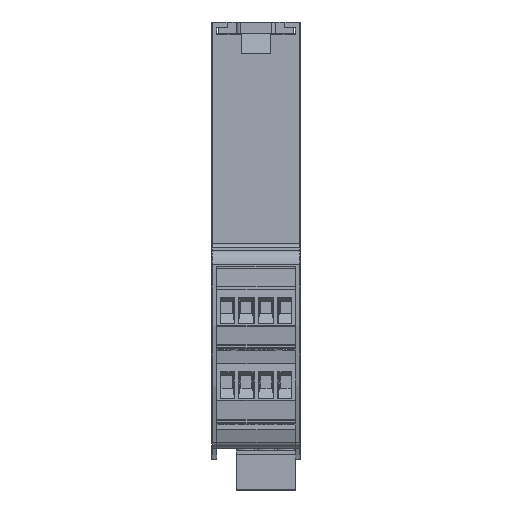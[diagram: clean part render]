
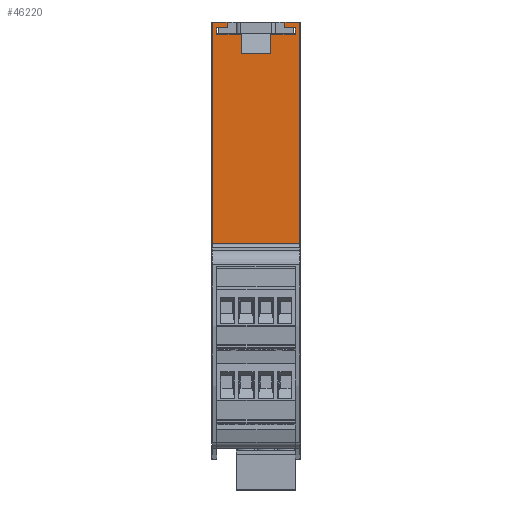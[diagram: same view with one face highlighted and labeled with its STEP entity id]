
A CAD part, left-side view. The second image highlights one B-rep face of the part: STEP entity #46220.
In plain terms, the highlighted planar face has unit normal (-1, 0, 0).
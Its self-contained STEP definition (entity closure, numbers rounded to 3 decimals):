
#266 = LINE ( 'NONE', #46862, #15262 ) ;
#1207 = LINE ( 'NONE', #30111, #59656 ) ;
#2087 = EDGE_LOOP ( 'NONE', ( #49932, #69602, #14100, #32956, #34879, #19425, #62532, #66159, #24176, #41565, #67461, #55290, #2326, #4050, #31049, #40725 ) ) ;
#2187 = VECTOR ( 'NONE', #13153, 1000. ) ;
#2326 = ORIENTED_EDGE ( 'NONE', *, *, #39250, .F. ) ;
#2455 = DIRECTION ( 'NONE',  ( 0., 0., -1. ) ) ;
#2920 = CARTESIAN_POINT ( 'NONE',  ( -39., -10., -1.5 ) ) ;
#2985 = LINE ( 'NONE', #58661, #31254 ) ;
#3419 = VERTEX_POINT ( 'NONE', #73088 ) ;
#3973 = VERTEX_POINT ( 'NONE', #19007 ) ;
#4050 = ORIENTED_EDGE ( 'NONE', *, *, #49450, .F. ) ;
#4187 = CARTESIAN_POINT ( 'NONE',  ( -39., 10., -1.5 ) ) ;
#4874 = EDGE_CURVE ( 'NONE', #38702, #3419, #9086, .T. ) ;
#5926 = VERTEX_POINT ( 'NONE', #28206 ) ;
#6036 = DIRECTION ( 'NONE',  ( 0., 1., 0. ) ) ;
#6085 = CARTESIAN_POINT ( 'NONE',  ( -39., 10., 0. ) ) ;
#7244 = DIRECTION ( 'NONE',  ( 0., 0., 1. ) ) ;
#7492 = CARTESIAN_POINT ( 'NONE',  ( -39., 3.7, 0. ) ) ;
#9086 = LINE ( 'NONE', #53193, #37425 ) ;
#9748 = EDGE_CURVE ( 'NONE', #16687, #38702, #17158, .T. ) ;
#10743 = LINE ( 'NONE', #42590, #40933 ) ;
#11021 = CARTESIAN_POINT ( 'NONE',  ( -39., -11.15, -0.1 ) ) ;
#11895 = CARTESIAN_POINT ( 'NONE',  ( -39., 11.25, -1.5 ) ) ;
#12021 = EDGE_CURVE ( 'NONE', #71825, #65815, #10743, .T. ) ;
#13153 = DIRECTION ( 'NONE',  ( 0., 0., -1. ) ) ;
#13456 = CARTESIAN_POINT ( 'NONE',  ( -39., 10., -3.1 ) ) ;
#13483 = LINE ( 'NONE', #11895, #28557 ) ;
#14051 = DIRECTION ( 'NONE',  ( 0., -1., 0. ) ) ;
#14100 = ORIENTED_EDGE ( 'NONE', *, *, #31877, .T. ) ;
#14666 = LINE ( 'NONE', #42344, #43109 ) ;
#15262 = VECTOR ( 'NONE', #7244, 1000. ) ;
#16175 = DIRECTION ( 'NONE',  ( 1., 0., 0. ) ) ;
#16680 = CARTESIAN_POINT ( 'NONE',  ( -39., 7.35, 0. ) ) ;
#16687 = VERTEX_POINT ( 'NONE', #57250 ) ;
#17158 = LINE ( 'NONE', #7492, #2187 ) ;
#17330 = EDGE_CURVE ( 'NONE', #42490, #19022, #1207, .T. ) ;
#18356 = DIRECTION ( 'NONE',  ( 0., 0., 1. ) ) ;
#18952 = VECTOR ( 'NONE', #38128, 1000. ) ;
#18966 = DIRECTION ( 'NONE',  ( 0., 1., 0. ) ) ;
#19007 = CARTESIAN_POINT ( 'NONE',  ( -39., -3.7, -3.1 ) ) ;
#19022 = VERTEX_POINT ( 'NONE', #71677 ) ;
#19042 = CARTESIAN_POINT ( 'NONE',  ( -39., -7.35, -1.5 ) ) ;
#19425 = ORIENTED_EDGE ( 'NONE', *, *, #4874, .F. ) ;
#19739 = LINE ( 'NONE', #57997, #48168 ) ;
#21425 = EDGE_CURVE ( 'NONE', #34737, #61393, #40589, .T. ) ;
#23377 = CARTESIAN_POINT ( 'NONE',  ( -39., -10., -4.5 ) ) ;
#23590 = DIRECTION ( 'NONE',  ( 0., 0., -1. ) ) ;
#24176 = ORIENTED_EDGE ( 'NONE', *, *, #21425, .F. ) ;
#25231 = EDGE_CURVE ( 'NONE', #3973, #59413, #64243, .T. ) ;
#26387 = DIRECTION ( 'NONE',  ( 0., -1., 0. ) ) ;
#26691 = CARTESIAN_POINT ( 'NONE',  ( -39., 11.25, -3.1 ) ) ;
#27020 = VECTOR ( 'NONE', #26387, 1000. ) ;
#28206 = CARTESIAN_POINT ( 'NONE',  ( -39., 7.35, -1.5 ) ) ;
#28344 = DIRECTION ( 'NONE',  ( 0., 0., -1. ) ) ;
#28557 = VECTOR ( 'NONE', #57251, 1000. ) ;
#29033 = CARTESIAN_POINT ( 'NONE',  ( -39., 3.7, -8. ) ) ;
#29767 = LINE ( 'NONE', #16680, #73150 ) ;
#29882 = DIRECTION ( 'NONE',  ( 0., 0., 1. ) ) ;
#30019 = EDGE_CURVE ( 'NONE', #51897, #45381, #14666, .T. ) ;
#30111 = CARTESIAN_POINT ( 'NONE',  ( -39., -7.35, 0. ) ) ;
#30186 = EDGE_CURVE ( 'NONE', #19022, #71825, #72177, .T. ) ;
#30979 = EDGE_CURVE ( 'NONE', #5926, #34737, #13483, .T. ) ;
#31049 = ORIENTED_EDGE ( 'NONE', *, *, #12021, .F. ) ;
#31164 = CARTESIAN_POINT ( 'NONE',  ( -39., 7.35, -0.1 ) ) ;
#31254 = VECTOR ( 'NONE', #18966, 1000. ) ;
#31877 = EDGE_CURVE ( 'NONE', #38372, #59413, #41617, .T. ) ;
#32956 = ORIENTED_EDGE ( 'NONE', *, *, #25231, .F. ) ;
#34217 = CARTESIAN_POINT ( 'NONE',  ( -39., 11.25, -1.5 ) ) ;
#34737 = VERTEX_POINT ( 'NONE', #4187 ) ;
#34879 = ORIENTED_EDGE ( 'NONE', *, *, #72398, .F. ) ;
#35384 = DIRECTION ( 'NONE',  ( 0., -1., 0. ) ) ;
#35397 = VECTOR ( 'NONE', #6036, 1000. ) ;
#37197 = LINE ( 'NONE', #34217, #35397 ) ;
#37425 = VECTOR ( 'NONE', #35384, 1000. ) ;
#38128 = DIRECTION ( 'NONE',  ( 0., -1., 0. ) ) ;
#38372 = VERTEX_POINT ( 'NONE', #2920 ) ;
#38702 = VERTEX_POINT ( 'NONE', #29033 ) ;
#38795 = VECTOR ( 'NONE', #23590, 1000. ) ;
#39250 = EDGE_CURVE ( 'NONE', #67993, #51897, #266, .T. ) ;
#39978 = EDGE_CURVE ( 'NONE', #38372, #42490, #37197, .T. ) ;
#40589 = LINE ( 'NONE', #6085, #38795 ) ;
#40725 = ORIENTED_EDGE ( 'NONE', *, *, #30186, .F. ) ;
#40933 = VECTOR ( 'NONE', #2455, 1000. ) ;
#41118 = EDGE_CURVE ( 'NONE', #45381, #5926, #29767, .T. ) ;
#41565 = ORIENTED_EDGE ( 'NONE', *, *, #30979, .F. ) ;
#41617 = LINE ( 'NONE', #23377, #54860 ) ;
#42142 = FACE_OUTER_BOUND ( 'NONE', #2087, .T. ) ;
#42344 = CARTESIAN_POINT ( 'NONE',  ( -39., 11.25, -0.1 ) ) ;
#42490 = VERTEX_POINT ( 'NONE', #19042 ) ;
#42590 = CARTESIAN_POINT ( 'NONE',  ( -39., -11.15, 0. ) ) ;
#43109 = VECTOR ( 'NONE', #14051, 1000. ) ;
#44598 = CARTESIAN_POINT ( 'NONE',  ( -39., -10., -3.1 ) ) ;
#45381 = VERTEX_POINT ( 'NONE', #31164 ) ;
#46220 = ADVANCED_FACE ( 'NONE', ( #42142 ), #61343, .F. ) ;
#46370 = EDGE_CURVE ( 'NONE', #61393, #16687, #48969, .T. ) ;
#46862 = CARTESIAN_POINT ( 'NONE',  ( -39., 11.15, 0. ) ) ;
#48168 = VECTOR ( 'NONE', #18356, 1000. ) ;
#48969 = LINE ( 'NONE', #62567, #62302 ) ;
#49450 = EDGE_CURVE ( 'NONE', #65815, #67993, #2985, .T. ) ;
#49932 = ORIENTED_EDGE ( 'NONE', *, *, #17330, .F. ) ;
#50137 = CARTESIAN_POINT ( 'NONE',  ( -39., 11.25, 0. ) ) ;
#51897 = VERTEX_POINT ( 'NONE', #61082 ) ;
#53193 = CARTESIAN_POINT ( 'NONE',  ( -39., 11.25, -8. ) ) ;
#53322 = CARTESIAN_POINT ( 'NONE',  ( -39., -11.15, -56.3 ) ) ;
#54860 = VECTOR ( 'NONE', #57338, 1000. ) ;
#55290 = ORIENTED_EDGE ( 'NONE', *, *, #30019, .F. ) ;
#55821 = DIRECTION ( 'NONE',  ( 0., 0., -1. ) ) ;
#57250 = CARTESIAN_POINT ( 'NONE',  ( -39., 3.7, -3.1 ) ) ;
#57251 = DIRECTION ( 'NONE',  ( 0., 1., 0. ) ) ;
#57299 = DIRECTION ( 'NONE',  ( 0., -1., 0. ) ) ;
#57338 = DIRECTION ( 'NONE',  ( 0., 0., -1. ) ) ;
#57997 = CARTESIAN_POINT ( 'NONE',  ( -39., -3.7, 0. ) ) ;
#58661 = CARTESIAN_POINT ( 'NONE',  ( -39., 11.25, -56.3 ) ) ;
#59413 = VERTEX_POINT ( 'NONE', #44598 ) ;
#59656 = VECTOR ( 'NONE', #29882, 1000. ) ;
#61082 = CARTESIAN_POINT ( 'NONE',  ( -39., 11.15, -0.1 ) ) ;
#61343 = PLANE ( 'NONE',  #68371 ) ;
#61393 = VERTEX_POINT ( 'NONE', #13456 ) ;
#62302 = VECTOR ( 'NONE', #57299, 1000. ) ;
#62532 = ORIENTED_EDGE ( 'NONE', *, *, #9748, .F. ) ;
#62567 = CARTESIAN_POINT ( 'NONE',  ( -39., 11.25, -3.1 ) ) ;
#64243 = LINE ( 'NONE', #26691, #18952 ) ;
#65815 = VERTEX_POINT ( 'NONE', #53322 ) ;
#66159 = ORIENTED_EDGE ( 'NONE', *, *, #46370, .F. ) ;
#67461 = ORIENTED_EDGE ( 'NONE', *, *, #41118, .F. ) ;
#67993 = VERTEX_POINT ( 'NONE', #70680 ) ;
#68371 = AXIS2_PLACEMENT_3D ( 'NONE', #50137, #16175, #55821 ) ;
#69602 = ORIENTED_EDGE ( 'NONE', *, *, #39978, .F. ) ;
#70680 = CARTESIAN_POINT ( 'NONE',  ( -39., 11.15, -56.3 ) ) ;
#71677 = CARTESIAN_POINT ( 'NONE',  ( -39., -7.35, -0.1 ) ) ;
#71681 = CARTESIAN_POINT ( 'NONE',  ( -39., 11.25, -0.1 ) ) ;
#71825 = VERTEX_POINT ( 'NONE', #11021 ) ;
#72177 = LINE ( 'NONE', #71681, #27020 ) ;
#72398 = EDGE_CURVE ( 'NONE', #3419, #3973, #19739, .T. ) ;
#73088 = CARTESIAN_POINT ( 'NONE',  ( -39., -3.7, -8. ) ) ;
#73150 = VECTOR ( 'NONE', #28344, 1000. ) ;
